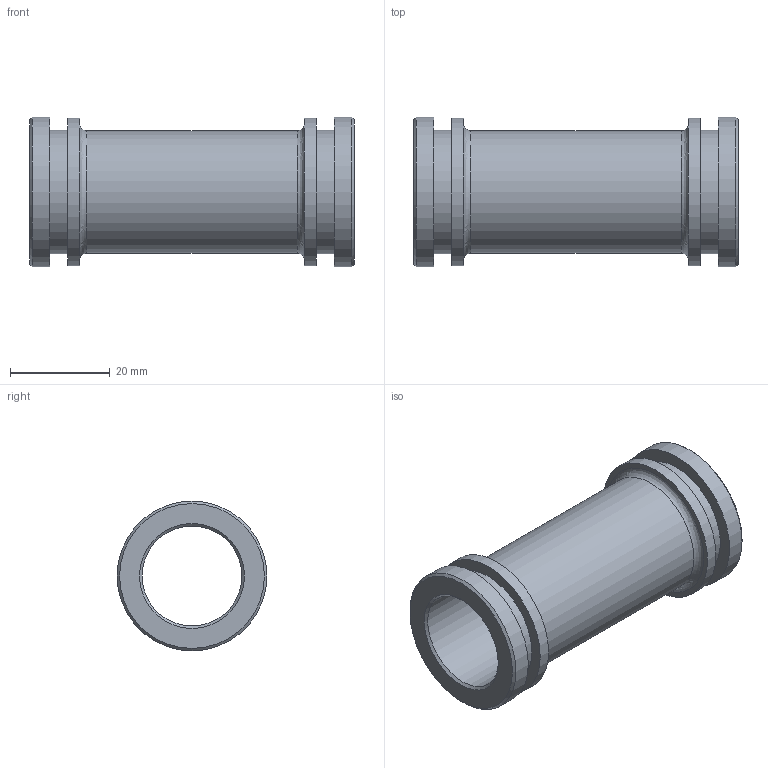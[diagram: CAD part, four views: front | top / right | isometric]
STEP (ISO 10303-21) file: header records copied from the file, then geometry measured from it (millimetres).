
FILE_DESCRIPTION((''),'2;1');
FILE_NAME('N:\CAD\ARCHIV\5350 (-999)\Standardhülsen\5350.020.065\Kundenteil 3D\5350.020.065 Kunden.stp','2009-02-13T09:07:46',('HWalkhoff'),(''),'Autodesk Inventor 2009','Autodesk Inventor 2009','');
FILE_SCHEMA(('AUTOMOTIVE_DESIGN { 1 0 10303 214 1 1 1 1 }'));
Length unit declared in the file: millimetre
Products named in the file (1): Hülse für Kunden
Bounding box: 65 x 30 x 30 mm (x, y, z)
Volume: 13215.6 mm3; surface area: 11187.4 mm2
Topology: 1 solids, 1 shells, 22 faces, 36 edges, 22 vertices
Faces by surface type: cylinder 8, plane 8, cone 4, bspline 2
Full cylindrical faces by diameter (mm): 20 x1, 24.5 x1, 24.76 x2, 29.5 x2, 30 x2
Entity records: 554 total; most frequent: CARTESIAN_POINT 155, DIRECTION 86, ORIENTED_EDGE 44, EDGE_LOOP 44, AXIS2_PLACEMENT_3D 43, VERTEX_POINT 22, CIRCLE 22, EDGE_CURVE 22
